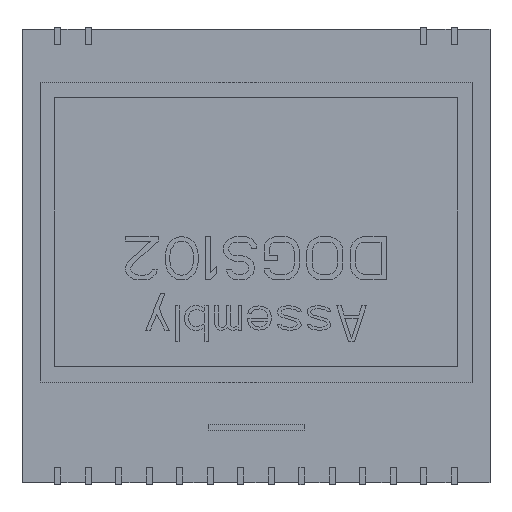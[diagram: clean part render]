
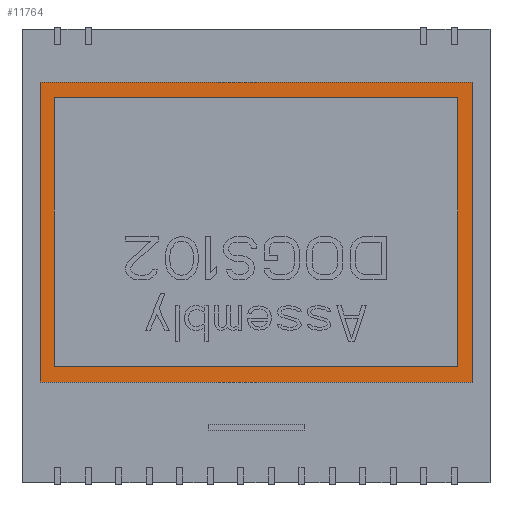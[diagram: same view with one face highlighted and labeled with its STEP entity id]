
A CAD part, top view. The second image highlights one B-rep face of the part: STEP entity #11764.
In plain terms, the highlighted planar face has unit normal (0, 0, 1).
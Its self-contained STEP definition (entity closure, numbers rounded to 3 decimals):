
#743=DIRECTION('',(0.,-1.,0.));
#744=VECTOR('',#743,25.);
#745=CARTESIAN_POINT('',(-18.,16.5,1.6));
#746=LINE('',#745,#744);
#747=DIRECTION('',(-1.,0.,0.));
#748=VECTOR('',#747,36.);
#749=CARTESIAN_POINT('',(18.,16.5,1.6));
#750=LINE('',#749,#748);
#751=DIRECTION('',(0.,1.,0.));
#752=VECTOR('',#751,25.);
#753=CARTESIAN_POINT('',(18.,-8.5,1.6));
#754=LINE('',#753,#752);
#755=DIRECTION('',(1.,0.,0.));
#756=VECTOR('',#755,36.);
#757=CARTESIAN_POINT('',(-18.,-8.5,1.6));
#758=LINE('',#757,#756);
#759=DIRECTION('',(0.,-1.,0.));
#760=VECTOR('',#759,22.39);
#761=CARTESIAN_POINT('',(-16.825,15.19,1.6));
#762=LINE('',#761,#760);
#763=DIRECTION('',(1.,0.,0.));
#764=VECTOR('',#763,33.65);
#765=CARTESIAN_POINT('',(-16.825,-7.2,1.6));
#766=LINE('',#765,#764);
#767=DIRECTION('',(0.,1.,0.));
#768=VECTOR('',#767,22.39);
#769=CARTESIAN_POINT('',(16.825,-7.2,1.6));
#770=LINE('',#769,#768);
#771=DIRECTION('',(-1.,0.,0.));
#772=VECTOR('',#771,33.65);
#773=CARTESIAN_POINT('',(16.825,15.19,1.6));
#774=LINE('',#773,#772);
#8431=CARTESIAN_POINT('',(-18.,16.5,1.6));
#8432=CARTESIAN_POINT('',(-18.,-8.5,1.6));
#8433=VERTEX_POINT('',#8431);
#8434=VERTEX_POINT('',#8432);
#8435=CARTESIAN_POINT('',(18.,-8.5,1.6));
#8436=VERTEX_POINT('',#8435);
#8437=CARTESIAN_POINT('',(18.,16.5,1.6));
#8438=VERTEX_POINT('',#8437);
#8455=CARTESIAN_POINT('',(-16.825,15.19,1.6));
#8456=CARTESIAN_POINT('',(-16.825,-7.2,1.6));
#8457=VERTEX_POINT('',#8455);
#8458=VERTEX_POINT('',#8456);
#8459=CARTESIAN_POINT('',(16.825,-7.2,1.6));
#8460=VERTEX_POINT('',#8459);
#8461=CARTESIAN_POINT('',(16.825,15.19,1.6));
#8462=VERTEX_POINT('',#8461);
#11743=CARTESIAN_POINT('',(0.,0.,1.6));
#11744=DIRECTION('',(0.,0.,1.));
#11745=DIRECTION('',(1.,0.,0.));
#11746=AXIS2_PLACEMENT_3D('',#11743,#11744,#11745);
#11747=PLANE('',#11746);
#11748=ORIENTED_EDGE('',*,*,#11695,.F.);
#11749=ORIENTED_EDGE('',*,*,#11710,.F.);
#11750=ORIENTED_EDGE('',*,*,#11724,.F.);
#11751=ORIENTED_EDGE('',*,*,#11737,.F.);
#11752=EDGE_LOOP('',(#11748,#11749,#11750,#11751));
#11753=FACE_OUTER_BOUND('',#11752,.F.);
#11755=ORIENTED_EDGE('',*,*,#11754,.T.);
#11757=ORIENTED_EDGE('',*,*,#11756,.T.);
#11759=ORIENTED_EDGE('',*,*,#11758,.T.);
#11761=ORIENTED_EDGE('',*,*,#11760,.T.);
#11762=EDGE_LOOP('',(#11755,#11757,#11759,#11761));
#11763=FACE_BOUND('',#11762,.F.);
#11695=EDGE_CURVE('',#8433,#8434,#746,.T.);
#11710=EDGE_CURVE('',#8438,#8433,#750,.T.);
#11724=EDGE_CURVE('',#8436,#8438,#754,.T.);
#11737=EDGE_CURVE('',#8434,#8436,#758,.T.);
#11754=EDGE_CURVE('',#8457,#8458,#762,.T.);
#11756=EDGE_CURVE('',#8458,#8460,#766,.T.);
#11758=EDGE_CURVE('',#8460,#8462,#770,.T.);
#11760=EDGE_CURVE('',#8462,#8457,#774,.T.);
#11764=ADVANCED_FACE('',(#11753,#11763),#11747,.T.);
